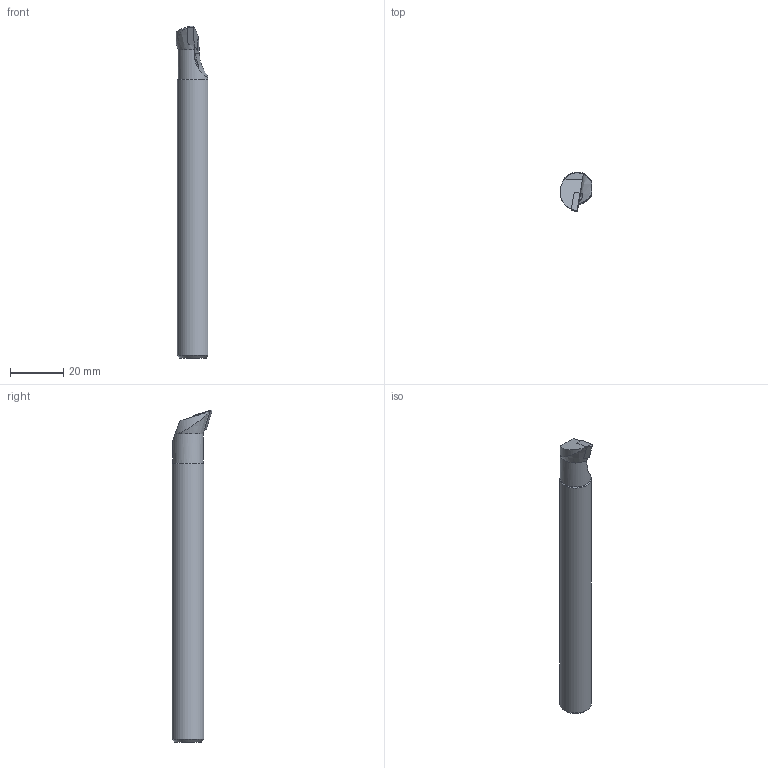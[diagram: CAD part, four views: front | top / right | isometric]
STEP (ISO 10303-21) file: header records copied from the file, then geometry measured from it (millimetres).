
FILE_DESCRIPTION(/* description */ (''),/* implementation_level */ '2;1');
FILE_NAME(/* name */ 'A12K-SDQCR07-HAAS.stp',/* time_stamp */ '2021-09-29T10:48:12+09:00',/* author */ (''),/* organization */ (''),/* preprocessor_version */ 'ST-DEVELOPER v16',/* originating_system */ 'SIEMENS PLM Software NX 10.0',/* authorisation */ '');
FILE_SCHEMA (('AUTOMOTIVE_DESIGN { 1 0 10303 214 3 1 1 1 }'));
Length unit declared in the file: millimetre
Products named in the file (1): model2
Bounding box: 11.95 x 15.01 x 125 mm (x, y, z)
Volume: 12309.9 mm3; surface area: 5892.6 mm2
Topology: 2 solids, 2 shells, 23 faces, 58 edges, 38 vertices
Faces by surface type: plane 12, cone 5, cylinder 5, bspline 1
Full cylindrical faces by diameter (mm): 2.5 x1, 3 x1
Entity records: 779 total; most frequent: CARTESIAN_POINT 228, DIRECTION 105, ORIENTED_EDGE 104, EDGE_CURVE 52, AXIS2_PLACEMENT_3D 40, VERTEX_POINT 35, EDGE_LOOP 27, LINE 25
